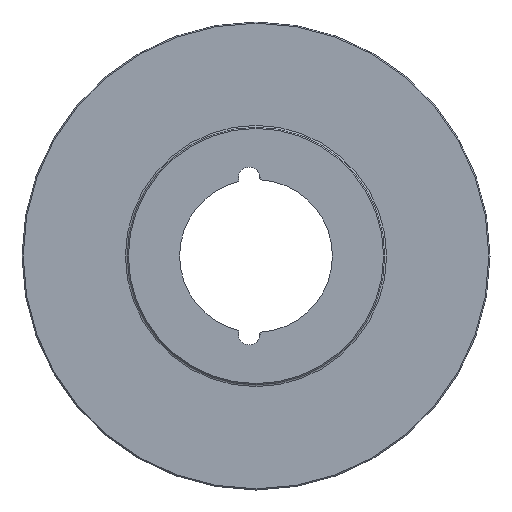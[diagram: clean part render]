
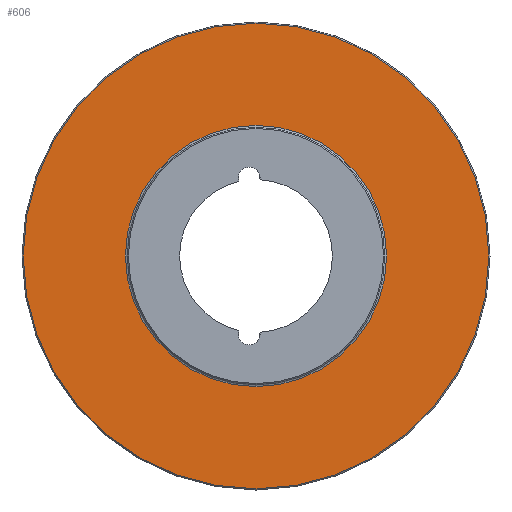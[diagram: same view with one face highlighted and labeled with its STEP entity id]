
A CAD part, left-side view. The second image highlights one B-rep face of the part: STEP entity #606.
In plain terms, the highlighted planar face has unit normal (-1, 0, 0).
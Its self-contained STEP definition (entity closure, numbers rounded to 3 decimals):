
#52=FACE_BOUND('',#204,.T.);
#82=PLANE('',#691);
#132=FACE_OUTER_BOUND('',#203,.T.);
#203=EDGE_LOOP('',(#512));
#204=EDGE_LOOP('',(#513));
#290=CIRCLE('',#690,99.5);
#291=CIRCLE('',#692,55.8);
#355=VERTEX_POINT('',#1119);
#356=VERTEX_POINT('',#1122);
#419=EDGE_CURVE('',#355,#355,#290,.T.);
#420=EDGE_CURVE('',#356,#356,#291,.T.);
#512=ORIENTED_EDGE('',*,*,#419,.T.);
#513=ORIENTED_EDGE('',*,*,#420,.F.);
#606=ADVANCED_FACE('',(#132,#52),#82,.T.);
#690=AXIS2_PLACEMENT_3D('',#1120,#855,#856);
#691=AXIS2_PLACEMENT_3D('',#1121,#857,#858);
#692=AXIS2_PLACEMENT_3D('',#1123,#859,#860);
#855=DIRECTION('center_axis',(-1.,0.,0.));
#856=DIRECTION('ref_axis',(0.,0.,1.));
#857=DIRECTION('center_axis',(-1.,0.,0.));
#858=DIRECTION('ref_axis',(0.,0.,1.));
#859=DIRECTION('center_axis',(-1.,0.,0.));
#860=DIRECTION('ref_axis',(0.,0.,1.));
#1119=CARTESIAN_POINT('',(-37.284,0.,204.609));
#1120=CARTESIAN_POINT('Origin',(-37.284,0.,105.109));
#1121=CARTESIAN_POINT('Origin',(-37.284,0.,160.909));
#1122=CARTESIAN_POINT('',(-37.284,0.,160.909));
#1123=CARTESIAN_POINT('Origin',(-37.284,0.,105.109));
